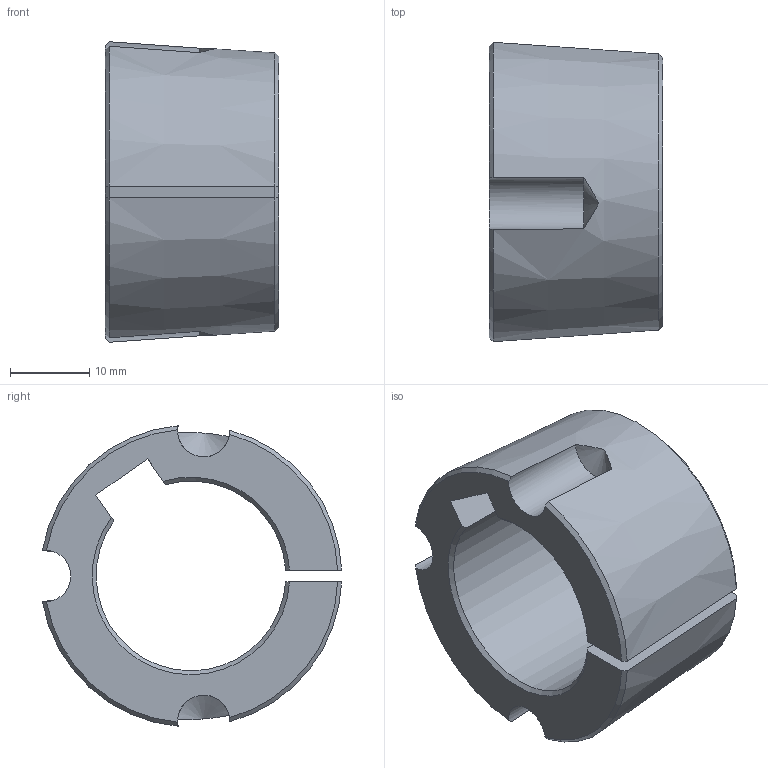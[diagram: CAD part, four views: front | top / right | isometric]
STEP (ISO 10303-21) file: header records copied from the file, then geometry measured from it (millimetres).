
FILE_DESCRIPTION(/* description */ (''),/* implementation_level */ '2;1');
FILE_NAME(/* name */ 'C:\Users\stagistaCAD\Desktop\Nuova cartella\29110824.stp',/* time_stamp */ '2018-06-27T14:27:56+02:00',/* author */ ('stagistacad'),/* organization */ (''),/* preprocessor_version */ 'ST-DEVELOPER v15.6',/* originating_system */ 'Autodesk Inventor 2015',/* authorisation */ '');
FILE_SCHEMA (('AUTOMOTIVE_DESIGN { 1 0 10303 214 3 1 1 }'));
Length unit declared in the file: millimetre
Products named in the file (1): 29110824
Bounding box: 22 x 37.88 x 38.03 mm (x, y, z)
Volume: 11672.3 mm3; surface area: 5729.2 mm2
Topology: 1 solids, 1 shells, 28 faces, 78 edges, 52 vertices
Faces by surface type: cone 14, cylinder 7, plane 7
Entity records: 986 total; most frequent: CARTESIAN_POINT 271, ORIENTED_EDGE 156, DIRECTION 140, EDGE_CURVE 78, AXIS2_PLACEMENT_3D 59, VERTEX_POINT 52, CIRCLE 30, FACE_OUTER_BOUND 28
